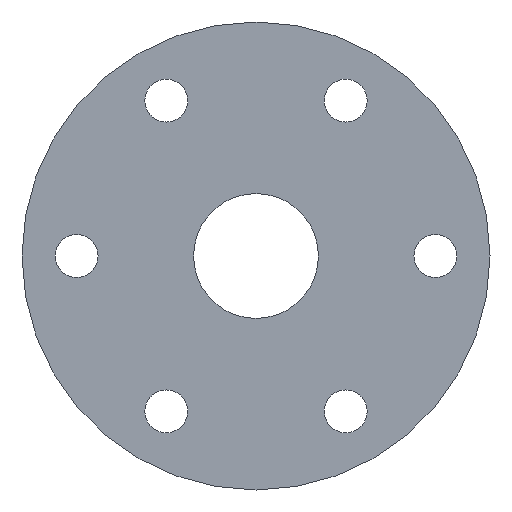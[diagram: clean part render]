
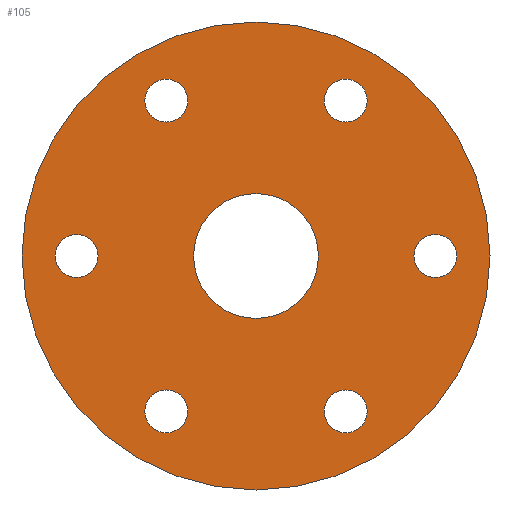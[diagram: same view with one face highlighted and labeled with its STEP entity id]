
A CAD part, left-side view. The second image highlights one B-rep face of the part: STEP entity #105.
In plain terms, the highlighted planar face has unit normal (-1, 0, 0).
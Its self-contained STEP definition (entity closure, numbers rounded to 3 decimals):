
#31 = CYLINDRICAL_SURFACE('',#32,30.);
#32 = AXIS2_PLACEMENT_3D('',#33,#34,#35);
#33 = CARTESIAN_POINT('',(0.,0.,0.));
#34 = DIRECTION('',(1.,0.,0.));
#35 = DIRECTION('',(0.,0.,-1.));
#56 = VERTEX_POINT('',#57);
#57 = CARTESIAN_POINT('',(0.,0.,-30.));
#78 = EDGE_CURVE('',#56,#56,#79,.T.);
#79 = SURFACE_CURVE('',#80,(#85,#92),.PCURVE_S1.);
#80 = CIRCLE('',#81,30.);
#81 = AXIS2_PLACEMENT_3D('',#82,#83,#84);
#82 = CARTESIAN_POINT('',(0.,0.,0.));
#83 = DIRECTION('',(1.,-0.,0.));
#84 = DIRECTION('',(0.,0.,-1.));
#85 = PCURVE('',#31,#86);
#86 = DEFINITIONAL_REPRESENTATION('',(#87),#91);
#87 = LINE('',#88,#89);
#88 = CARTESIAN_POINT('',(0.,0.));
#89 = VECTOR('',#90,1.);
#90 = DIRECTION('',(1.,0.));
#91 = ( GEOMETRIC_REPRESENTATION_CONTEXT(2) 
PARAMETRIC_REPRESENTATION_CONTEXT() REPRESENTATION_CONTEXT('2D SPACE',''
  ) );
#92 = PCURVE('',#93,#98);
#93 = PLANE('',#94);
#94 = AXIS2_PLACEMENT_3D('',#95,#96,#97);
#95 = CARTESIAN_POINT('',(0.,0.,0.));
#96 = DIRECTION('',(1.,0.,0.));
#97 = DIRECTION('',(0.,0.,-1.));
#98 = DEFINITIONAL_REPRESENTATION('',(#99),#103);
#99 = CIRCLE('',#100,30.);
#100 = AXIS2_PLACEMENT_2D('',#101,#102);
#101 = CARTESIAN_POINT('',(0.,0.));
#102 = DIRECTION('',(1.,0.));
#103 = ( GEOMETRIC_REPRESENTATION_CONTEXT(2) 
PARAMETRIC_REPRESENTATION_CONTEXT() REPRESENTATION_CONTEXT('2D SPACE',''
  ) );
#105 = ADVANCED_FACE('',(#106,#109,#140,#171,#202,#233,#264,#295),#93,
  .F.);
#106 = FACE_BOUND('',#107,.F.);
#107 = EDGE_LOOP('',(#108));
#108 = ORIENTED_EDGE('',*,*,#78,.T.);
#109 = FACE_BOUND('',#110,.F.);
#110 = EDGE_LOOP('',(#111));
#111 = ORIENTED_EDGE('',*,*,#112,.F.);
#112 = EDGE_CURVE('',#113,#113,#115,.T.);
#113 = VERTEX_POINT('',#114);
#114 = CARTESIAN_POINT('',(0.,-11.5,17.169));
#115 = SURFACE_CURVE('',#116,(#121,#128),.PCURVE_S1.);
#116 = CIRCLE('',#117,2.75);
#117 = AXIS2_PLACEMENT_3D('',#118,#119,#120);
#118 = CARTESIAN_POINT('',(0.,-11.5,19.919));
#119 = DIRECTION('',(1.,0.,0.));
#120 = DIRECTION('',(0.,0.,-1.));
#121 = PCURVE('',#93,#122);
#122 = DEFINITIONAL_REPRESENTATION('',(#123),#127);
#123 = CIRCLE('',#124,2.75);
#124 = AXIS2_PLACEMENT_2D('',#125,#126);
#125 = CARTESIAN_POINT('',(-19.919,-11.5));
#126 = DIRECTION('',(1.,0.));
#127 = ( GEOMETRIC_REPRESENTATION_CONTEXT(2) 
PARAMETRIC_REPRESENTATION_CONTEXT() REPRESENTATION_CONTEXT('2D SPACE',''
  ) );
#128 = PCURVE('',#129,#134);
#129 = CYLINDRICAL_SURFACE('',#130,2.75);
#130 = AXIS2_PLACEMENT_3D('',#131,#132,#133);
#131 = CARTESIAN_POINT('',(-2.,-11.5,19.919));
#132 = DIRECTION('',(1.,0.,0.));
#133 = DIRECTION('',(0.,0.,-1.));
#134 = DEFINITIONAL_REPRESENTATION('',(#135),#139);
#135 = LINE('',#136,#137);
#136 = CARTESIAN_POINT('',(0.,2.));
#137 = VECTOR('',#138,1.);
#138 = DIRECTION('',(1.,0.));
#139 = ( GEOMETRIC_REPRESENTATION_CONTEXT(2) 
PARAMETRIC_REPRESENTATION_CONTEXT() REPRESENTATION_CONTEXT('2D SPACE',''
  ) );
#140 = FACE_BOUND('',#141,.F.);
#141 = EDGE_LOOP('',(#142));
#142 = ORIENTED_EDGE('',*,*,#143,.F.);
#143 = EDGE_CURVE('',#144,#144,#146,.T.);
#144 = VERTEX_POINT('',#145);
#145 = CARTESIAN_POINT('',(0.,-23.,-2.75));
#146 = SURFACE_CURVE('',#147,(#152,#159),.PCURVE_S1.);
#147 = CIRCLE('',#148,2.75);
#148 = AXIS2_PLACEMENT_3D('',#149,#150,#151);
#149 = CARTESIAN_POINT('',(0.,-23.,0.));
#150 = DIRECTION('',(1.,0.,0.));
#151 = DIRECTION('',(0.,0.,-1.));
#152 = PCURVE('',#93,#153);
#153 = DEFINITIONAL_REPRESENTATION('',(#154),#158);
#154 = CIRCLE('',#155,2.75);
#155 = AXIS2_PLACEMENT_2D('',#156,#157);
#156 = CARTESIAN_POINT('',(0.,-23.));
#157 = DIRECTION('',(1.,0.));
#158 = ( GEOMETRIC_REPRESENTATION_CONTEXT(2) 
PARAMETRIC_REPRESENTATION_CONTEXT() REPRESENTATION_CONTEXT('2D SPACE',''
  ) );
#159 = PCURVE('',#160,#165);
#160 = CYLINDRICAL_SURFACE('',#161,2.75);
#161 = AXIS2_PLACEMENT_3D('',#162,#163,#164);
#162 = CARTESIAN_POINT('',(-2.,-23.,0.));
#163 = DIRECTION('',(1.,0.,0.));
#164 = DIRECTION('',(0.,0.,-1.));
#165 = DEFINITIONAL_REPRESENTATION('',(#166),#170);
#166 = LINE('',#167,#168);
#167 = CARTESIAN_POINT('',(0.,2.));
#168 = VECTOR('',#169,1.);
#169 = DIRECTION('',(1.,0.));
#170 = ( GEOMETRIC_REPRESENTATION_CONTEXT(2) 
PARAMETRIC_REPRESENTATION_CONTEXT() REPRESENTATION_CONTEXT('2D SPACE',''
  ) );
#171 = FACE_BOUND('',#172,.F.);
#172 = EDGE_LOOP('',(#173));
#173 = ORIENTED_EDGE('',*,*,#174,.F.);
#174 = EDGE_CURVE('',#175,#175,#177,.T.);
#175 = VERTEX_POINT('',#176);
#176 = CARTESIAN_POINT('',(0.,0.,-8.));
#177 = SURFACE_CURVE('',#178,(#183,#190),.PCURVE_S1.);
#178 = CIRCLE('',#179,8.);
#179 = AXIS2_PLACEMENT_3D('',#180,#181,#182);
#180 = CARTESIAN_POINT('',(0.,0.,0.));
#181 = DIRECTION('',(1.,0.,0.));
#182 = DIRECTION('',(0.,0.,-1.));
#183 = PCURVE('',#93,#184);
#184 = DEFINITIONAL_REPRESENTATION('',(#185),#189);
#185 = CIRCLE('',#186,8.);
#186 = AXIS2_PLACEMENT_2D('',#187,#188);
#187 = CARTESIAN_POINT('',(0.,0.));
#188 = DIRECTION('',(1.,0.));
#189 = ( GEOMETRIC_REPRESENTATION_CONTEXT(2) 
PARAMETRIC_REPRESENTATION_CONTEXT() REPRESENTATION_CONTEXT('2D SPACE',''
  ) );
#190 = PCURVE('',#191,#196);
#191 = CYLINDRICAL_SURFACE('',#192,8.);
#192 = AXIS2_PLACEMENT_3D('',#193,#194,#195);
#193 = CARTESIAN_POINT('',(-1.,0.,0.));
#194 = DIRECTION('',(1.,0.,0.));
#195 = DIRECTION('',(0.,0.,-1.));
#196 = DEFINITIONAL_REPRESENTATION('',(#197),#201);
#197 = LINE('',#198,#199);
#198 = CARTESIAN_POINT('',(0.,1.));
#199 = VECTOR('',#200,1.);
#200 = DIRECTION('',(1.,0.));
#201 = ( GEOMETRIC_REPRESENTATION_CONTEXT(2) 
PARAMETRIC_REPRESENTATION_CONTEXT() REPRESENTATION_CONTEXT('2D SPACE',''
  ) );
#202 = FACE_BOUND('',#203,.F.);
#203 = EDGE_LOOP('',(#204));
#204 = ORIENTED_EDGE('',*,*,#205,.F.);
#205 = EDGE_CURVE('',#206,#206,#208,.T.);
#206 = VERTEX_POINT('',#207);
#207 = CARTESIAN_POINT('',(0.,-11.5,-22.669));
#208 = SURFACE_CURVE('',#209,(#214,#221),.PCURVE_S1.);
#209 = CIRCLE('',#210,2.75);
#210 = AXIS2_PLACEMENT_3D('',#211,#212,#213);
#211 = CARTESIAN_POINT('',(0.,-11.5,-19.919));
#212 = DIRECTION('',(1.,0.,0.));
#213 = DIRECTION('',(0.,0.,-1.));
#214 = PCURVE('',#93,#215);
#215 = DEFINITIONAL_REPRESENTATION('',(#216),#220);
#216 = CIRCLE('',#217,2.75);
#217 = AXIS2_PLACEMENT_2D('',#218,#219);
#218 = CARTESIAN_POINT('',(19.919,-11.5));
#219 = DIRECTION('',(1.,0.));
#220 = ( GEOMETRIC_REPRESENTATION_CONTEXT(2) 
PARAMETRIC_REPRESENTATION_CONTEXT() REPRESENTATION_CONTEXT('2D SPACE',''
  ) );
#221 = PCURVE('',#222,#227);
#222 = CYLINDRICAL_SURFACE('',#223,2.75);
#223 = AXIS2_PLACEMENT_3D('',#224,#225,#226);
#224 = CARTESIAN_POINT('',(-2.,-11.5,-19.919));
#225 = DIRECTION('',(1.,0.,0.));
#226 = DIRECTION('',(0.,0.,-1.));
#227 = DEFINITIONAL_REPRESENTATION('',(#228),#232);
#228 = LINE('',#229,#230);
#229 = CARTESIAN_POINT('',(0.,2.));
#230 = VECTOR('',#231,1.);
#231 = DIRECTION('',(1.,0.));
#232 = ( GEOMETRIC_REPRESENTATION_CONTEXT(2) 
PARAMETRIC_REPRESENTATION_CONTEXT() REPRESENTATION_CONTEXT('2D SPACE',''
  ) );
#233 = FACE_BOUND('',#234,.F.);
#234 = EDGE_LOOP('',(#235));
#235 = ORIENTED_EDGE('',*,*,#236,.F.);
#236 = EDGE_CURVE('',#237,#237,#239,.T.);
#237 = VERTEX_POINT('',#238);
#238 = CARTESIAN_POINT('',(0.,11.5,17.169));
#239 = SURFACE_CURVE('',#240,(#245,#252),.PCURVE_S1.);
#240 = CIRCLE('',#241,2.75);
#241 = AXIS2_PLACEMENT_3D('',#242,#243,#244);
#242 = CARTESIAN_POINT('',(0.,11.5,19.919));
#243 = DIRECTION('',(1.,0.,0.));
#244 = DIRECTION('',(0.,0.,-1.));
#245 = PCURVE('',#93,#246);
#246 = DEFINITIONAL_REPRESENTATION('',(#247),#251);
#247 = CIRCLE('',#248,2.75);
#248 = AXIS2_PLACEMENT_2D('',#249,#250);
#249 = CARTESIAN_POINT('',(-19.919,11.5));
#250 = DIRECTION('',(1.,0.));
#251 = ( GEOMETRIC_REPRESENTATION_CONTEXT(2) 
PARAMETRIC_REPRESENTATION_CONTEXT() REPRESENTATION_CONTEXT('2D SPACE',''
  ) );
#252 = PCURVE('',#253,#258);
#253 = CYLINDRICAL_SURFACE('',#254,2.75);
#254 = AXIS2_PLACEMENT_3D('',#255,#256,#257);
#255 = CARTESIAN_POINT('',(-2.,11.5,19.919));
#256 = DIRECTION('',(1.,0.,0.));
#257 = DIRECTION('',(0.,0.,-1.));
#258 = DEFINITIONAL_REPRESENTATION('',(#259),#263);
#259 = LINE('',#260,#261);
#260 = CARTESIAN_POINT('',(0.,2.));
#261 = VECTOR('',#262,1.);
#262 = DIRECTION('',(1.,0.));
#263 = ( GEOMETRIC_REPRESENTATION_CONTEXT(2) 
PARAMETRIC_REPRESENTATION_CONTEXT() REPRESENTATION_CONTEXT('2D SPACE',''
  ) );
#264 = FACE_BOUND('',#265,.F.);
#265 = EDGE_LOOP('',(#266));
#266 = ORIENTED_EDGE('',*,*,#267,.F.);
#267 = EDGE_CURVE('',#268,#268,#270,.T.);
#268 = VERTEX_POINT('',#269);
#269 = CARTESIAN_POINT('',(0.,11.5,-22.669));
#270 = SURFACE_CURVE('',#271,(#276,#283),.PCURVE_S1.);
#271 = CIRCLE('',#272,2.75);
#272 = AXIS2_PLACEMENT_3D('',#273,#274,#275);
#273 = CARTESIAN_POINT('',(0.,11.5,-19.919));
#274 = DIRECTION('',(1.,0.,0.));
#275 = DIRECTION('',(0.,0.,-1.));
#276 = PCURVE('',#93,#277);
#277 = DEFINITIONAL_REPRESENTATION('',(#278),#282);
#278 = CIRCLE('',#279,2.75);
#279 = AXIS2_PLACEMENT_2D('',#280,#281);
#280 = CARTESIAN_POINT('',(19.919,11.5));
#281 = DIRECTION('',(1.,0.));
#282 = ( GEOMETRIC_REPRESENTATION_CONTEXT(2) 
PARAMETRIC_REPRESENTATION_CONTEXT() REPRESENTATION_CONTEXT('2D SPACE',''
  ) );
#283 = PCURVE('',#284,#289);
#284 = CYLINDRICAL_SURFACE('',#285,2.75);
#285 = AXIS2_PLACEMENT_3D('',#286,#287,#288);
#286 = CARTESIAN_POINT('',(-2.,11.5,-19.919));
#287 = DIRECTION('',(1.,0.,0.));
#288 = DIRECTION('',(0.,0.,-1.));
#289 = DEFINITIONAL_REPRESENTATION('',(#290),#294);
#290 = LINE('',#291,#292);
#291 = CARTESIAN_POINT('',(0.,2.));
#292 = VECTOR('',#293,1.);
#293 = DIRECTION('',(1.,0.));
#294 = ( GEOMETRIC_REPRESENTATION_CONTEXT(2) 
PARAMETRIC_REPRESENTATION_CONTEXT() REPRESENTATION_CONTEXT('2D SPACE',''
  ) );
#295 = FACE_BOUND('',#296,.F.);
#296 = EDGE_LOOP('',(#297));
#297 = ORIENTED_EDGE('',*,*,#298,.F.);
#298 = EDGE_CURVE('',#299,#299,#301,.T.);
#299 = VERTEX_POINT('',#300);
#300 = CARTESIAN_POINT('',(0.,23.,-2.75));
#301 = SURFACE_CURVE('',#302,(#307,#314),.PCURVE_S1.);
#302 = CIRCLE('',#303,2.75);
#303 = AXIS2_PLACEMENT_3D('',#304,#305,#306);
#304 = CARTESIAN_POINT('',(0.,23.,0.));
#305 = DIRECTION('',(1.,0.,0.));
#306 = DIRECTION('',(0.,0.,-1.));
#307 = PCURVE('',#93,#308);
#308 = DEFINITIONAL_REPRESENTATION('',(#309),#313);
#309 = CIRCLE('',#310,2.75);
#310 = AXIS2_PLACEMENT_2D('',#311,#312);
#311 = CARTESIAN_POINT('',(0.,23.));
#312 = DIRECTION('',(1.,0.));
#313 = ( GEOMETRIC_REPRESENTATION_CONTEXT(2) 
PARAMETRIC_REPRESENTATION_CONTEXT() REPRESENTATION_CONTEXT('2D SPACE',''
  ) );
#314 = PCURVE('',#315,#320);
#315 = CYLINDRICAL_SURFACE('',#316,2.75);
#316 = AXIS2_PLACEMENT_3D('',#317,#318,#319);
#317 = CARTESIAN_POINT('',(-2.,23.,0.));
#318 = DIRECTION('',(1.,0.,0.));
#319 = DIRECTION('',(0.,0.,-1.));
#320 = DEFINITIONAL_REPRESENTATION('',(#321),#325);
#321 = LINE('',#322,#323);
#322 = CARTESIAN_POINT('',(0.,2.));
#323 = VECTOR('',#324,1.);
#324 = DIRECTION('',(1.,0.));
#325 = ( GEOMETRIC_REPRESENTATION_CONTEXT(2) 
PARAMETRIC_REPRESENTATION_CONTEXT() REPRESENTATION_CONTEXT('2D SPACE',''
  ) );
